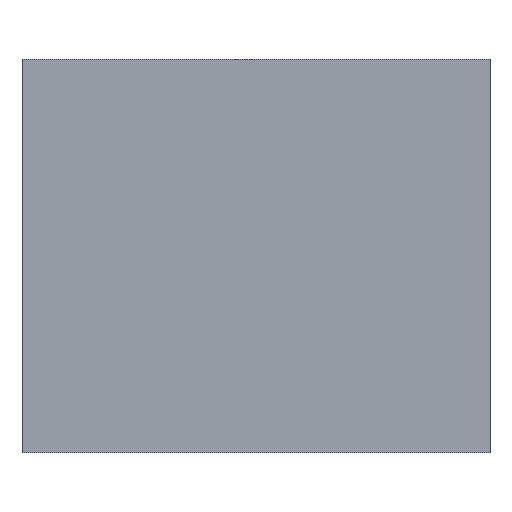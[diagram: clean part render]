
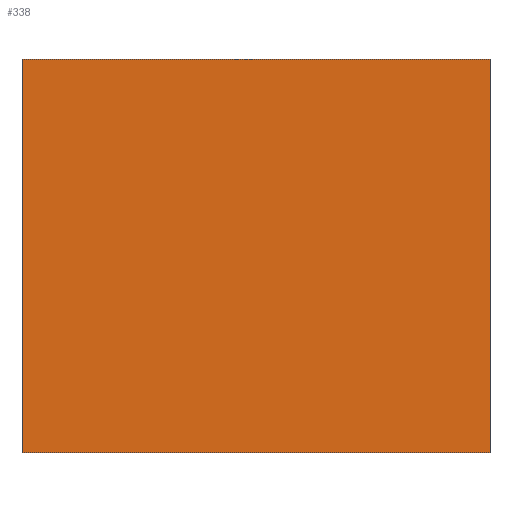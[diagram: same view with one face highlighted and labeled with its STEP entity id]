
A CAD part, front view. The second image highlights one B-rep face of the part: STEP entity #338.
In plain terms, the highlighted planar face has unit normal (0, -1, 0).
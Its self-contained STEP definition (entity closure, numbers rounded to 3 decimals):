
#24 = VERTEX_POINT('',#25);
#25 = CARTESIAN_POINT('',(-450.,-137.788,2.5));
#32 = PLANE('',#33);
#33 = AXIS2_PLACEMENT_3D('',#34,#35,#36);
#34 = CARTESIAN_POINT('',(-450.,-137.638,2.5));
#35 = DIRECTION('',(-0.,0.,1.));
#36 = DIRECTION('',(1.,0.,0.));
#44 = PLANE('',#45);
#45 = AXIS2_PLACEMENT_3D('',#46,#47,#48);
#46 = CARTESIAN_POINT('',(-450.,-137.638,23.5));
#47 = DIRECTION('',(1.,0.,0.));
#48 = DIRECTION('',(0.,0.,-1.));
#56 = EDGE_CURVE('',#24,#57,#59,.T.);
#57 = VERTEX_POINT('',#58);
#58 = CARTESIAN_POINT('',(-425.,-137.788,2.5));
#59 = SURFACE_CURVE('',#60,(#64,#71),.PCURVE_S1.);
#60 = LINE('',#61,#62);
#61 = CARTESIAN_POINT('',(-450.,-137.788,2.5));
#62 = VECTOR('',#63,1.);
#63 = DIRECTION('',(1.,0.,0.));
#64 = PCURVE('',#32,#65);
#65 = DEFINITIONAL_REPRESENTATION('',(#66),#70);
#66 = LINE('',#67,#68);
#67 = CARTESIAN_POINT('',(0.,-0.15));
#68 = VECTOR('',#69,1.);
#69 = DIRECTION('',(1.,0.));
#70 = ( GEOMETRIC_REPRESENTATION_CONTEXT(2) 
PARAMETRIC_REPRESENTATION_CONTEXT() REPRESENTATION_CONTEXT('2D SPACE',''
  ) );
#71 = PCURVE('',#72,#77);
#72 = PLANE('',#73);
#73 = AXIS2_PLACEMENT_3D('',#74,#75,#76);
#74 = CARTESIAN_POINT('',(-437.5,-137.788,13.));
#75 = DIRECTION('',(-0.,-1.,-0.));
#76 = DIRECTION('',(0.,0.,-1.));
#77 = DEFINITIONAL_REPRESENTATION('',(#78),#82);
#78 = LINE('',#79,#80);
#79 = CARTESIAN_POINT('',(10.5,-12.5));
#80 = VECTOR('',#81,1.);
#81 = DIRECTION('',(0.,1.));
#82 = ( GEOMETRIC_REPRESENTATION_CONTEXT(2) 
PARAMETRIC_REPRESENTATION_CONTEXT() REPRESENTATION_CONTEXT('2D SPACE',''
  ) );
#100 = PLANE('',#101);
#101 = AXIS2_PLACEMENT_3D('',#102,#103,#104);
#102 = CARTESIAN_POINT('',(-425.,-137.638,2.5));
#103 = DIRECTION('',(-1.,0.,0.));
#104 = DIRECTION('',(0.,0.,1.));
#142 = EDGE_CURVE('',#57,#143,#145,.T.);
#143 = VERTEX_POINT('',#144);
#144 = CARTESIAN_POINT('',(-425.,-137.788,23.5));
#145 = SURFACE_CURVE('',#146,(#150,#157),.PCURVE_S1.);
#146 = LINE('',#147,#148);
#147 = CARTESIAN_POINT('',(-425.,-137.788,2.5));
#148 = VECTOR('',#149,1.);
#149 = DIRECTION('',(0.,0.,1.));
#150 = PCURVE('',#100,#151);
#151 = DEFINITIONAL_REPRESENTATION('',(#152),#156);
#152 = LINE('',#153,#154);
#153 = CARTESIAN_POINT('',(0.,-0.15));
#154 = VECTOR('',#155,1.);
#155 = DIRECTION('',(1.,0.));
#156 = ( GEOMETRIC_REPRESENTATION_CONTEXT(2) 
PARAMETRIC_REPRESENTATION_CONTEXT() REPRESENTATION_CONTEXT('2D SPACE',''
  ) );
#157 = PCURVE('',#72,#158);
#158 = DEFINITIONAL_REPRESENTATION('',(#159),#163);
#159 = LINE('',#160,#161);
#160 = CARTESIAN_POINT('',(10.5,12.5));
#161 = VECTOR('',#162,1.);
#162 = DIRECTION('',(-1.,0.));
#163 = ( GEOMETRIC_REPRESENTATION_CONTEXT(2) 
PARAMETRIC_REPRESENTATION_CONTEXT() REPRESENTATION_CONTEXT('2D SPACE',''
  ) );
#181 = PLANE('',#182);
#182 = AXIS2_PLACEMENT_3D('',#183,#184,#185);
#183 = CARTESIAN_POINT('',(-425.,-137.638,23.5));
#184 = DIRECTION('',(-0.,-0.,-1.));
#185 = DIRECTION('',(-1.,0.,0.));
#218 = EDGE_CURVE('',#143,#219,#221,.T.);
#219 = VERTEX_POINT('',#220);
#220 = CARTESIAN_POINT('',(-450.,-137.788,23.5));
#221 = SURFACE_CURVE('',#222,(#226,#233),.PCURVE_S1.);
#222 = LINE('',#223,#224);
#223 = CARTESIAN_POINT('',(-425.,-137.788,23.5));
#224 = VECTOR('',#225,1.);
#225 = DIRECTION('',(-1.,0.,0.));
#226 = PCURVE('',#181,#227);
#227 = DEFINITIONAL_REPRESENTATION('',(#228),#232);
#228 = LINE('',#229,#230);
#229 = CARTESIAN_POINT('',(0.,-0.15));
#230 = VECTOR('',#231,1.);
#231 = DIRECTION('',(1.,0.));
#232 = ( GEOMETRIC_REPRESENTATION_CONTEXT(2) 
PARAMETRIC_REPRESENTATION_CONTEXT() REPRESENTATION_CONTEXT('2D SPACE',''
  ) );
#233 = PCURVE('',#72,#234);
#234 = DEFINITIONAL_REPRESENTATION('',(#235),#239);
#235 = LINE('',#236,#237);
#236 = CARTESIAN_POINT('',(-10.5,12.5));
#237 = VECTOR('',#238,1.);
#238 = DIRECTION('',(0.,-1.));
#239 = ( GEOMETRIC_REPRESENTATION_CONTEXT(2) 
PARAMETRIC_REPRESENTATION_CONTEXT() REPRESENTATION_CONTEXT('2D SPACE',''
  ) );
#289 = EDGE_CURVE('',#219,#24,#290,.T.);
#290 = SURFACE_CURVE('',#291,(#295,#302),.PCURVE_S1.);
#291 = LINE('',#292,#293);
#292 = CARTESIAN_POINT('',(-450.,-137.788,23.5));
#293 = VECTOR('',#294,1.);
#294 = DIRECTION('',(0.,0.,-1.));
#295 = PCURVE('',#44,#296);
#296 = DEFINITIONAL_REPRESENTATION('',(#297),#301);
#297 = LINE('',#298,#299);
#298 = CARTESIAN_POINT('',(0.,-0.15));
#299 = VECTOR('',#300,1.);
#300 = DIRECTION('',(1.,0.));
#301 = ( GEOMETRIC_REPRESENTATION_CONTEXT(2) 
PARAMETRIC_REPRESENTATION_CONTEXT() REPRESENTATION_CONTEXT('2D SPACE',''
  ) );
#302 = PCURVE('',#72,#303);
#303 = DEFINITIONAL_REPRESENTATION('',(#304),#308);
#304 = LINE('',#305,#306);
#305 = CARTESIAN_POINT('',(-10.5,-12.5));
#306 = VECTOR('',#307,1.);
#307 = DIRECTION('',(1.,0.));
#308 = ( GEOMETRIC_REPRESENTATION_CONTEXT(2) 
PARAMETRIC_REPRESENTATION_CONTEXT() REPRESENTATION_CONTEXT('2D SPACE',''
  ) );
#338 = ADVANCED_FACE('',(#339),#72,.T.);
#339 = FACE_BOUND('',#340,.T.);
#340 = EDGE_LOOP('',(#341,#342,#343,#344));
#341 = ORIENTED_EDGE('',*,*,#56,.T.);
#342 = ORIENTED_EDGE('',*,*,#142,.T.);
#343 = ORIENTED_EDGE('',*,*,#218,.T.);
#344 = ORIENTED_EDGE('',*,*,#289,.T.);
